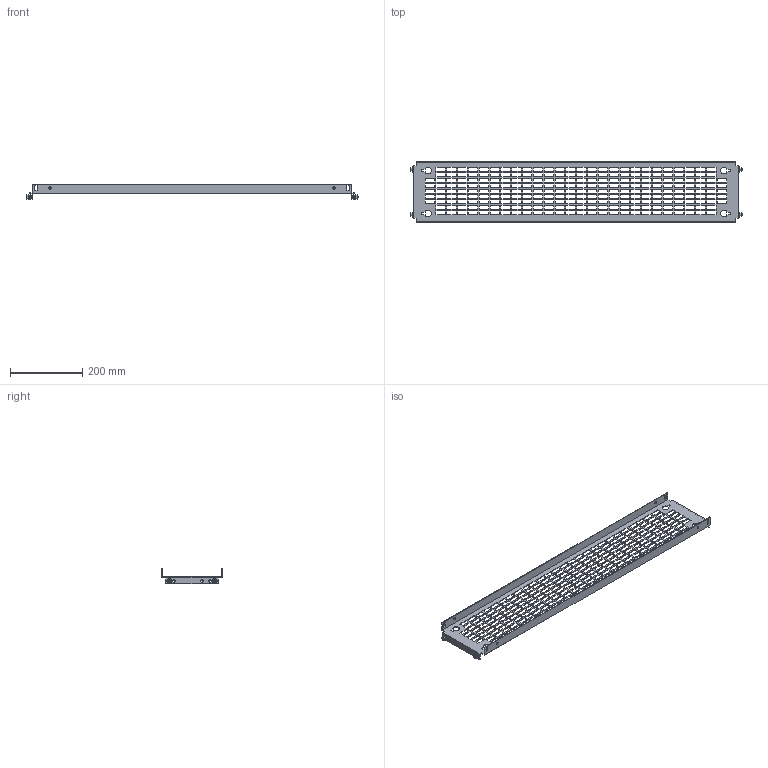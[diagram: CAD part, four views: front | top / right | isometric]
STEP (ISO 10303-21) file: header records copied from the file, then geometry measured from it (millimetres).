
FILE_DESCRIPTION(('Open CASCADE Model'),'2;1');
FILE_NAME('Open CASCADE Shape Model','2025-02-19T16:48:33',('Author'),( 'Open CASCADE'),'Open CASCADE STEP processor 7.8','Open CASCADE 7.8' ,'Unknown');
FILE_SCHEMA(('AUTOMOTIVE_DESIGN { 1 0 10303 214 1 1 1 1 }'));
Length unit declared in the file: millimetre
Products named in the file (4): Compound1; Solid1; Solid2; Solid3
Assembly tree (9 placements, depth 2):
  Compound1
    Solid1
    Solid2  x4
    Solid3  x4
Bounding box: 920 x 169 x 43 mm (x, y, z)
Volume: 260132.3 mm3; surface area: 301575.8 mm2
Topology: 9 solids, 9 shells, 1268 faces, 3633 edges, 2387 vertices
Faces by surface type: plane 1110, cone 68, bspline 48, cylinder 30, torus 12
Full cylindrical faces by diameter (mm): 5 x4, 6 x8, 7 x14
Entity records: 37974 total; most frequent: CARTESIAN_POINT 7199, ORIENTED_EDGE 6588, DIRECTION 5502, EDGE_CURVE 3294, LINE 3136, VECTOR 3136, VERTEX_POINT 2189, FACE_BOUND 1647
